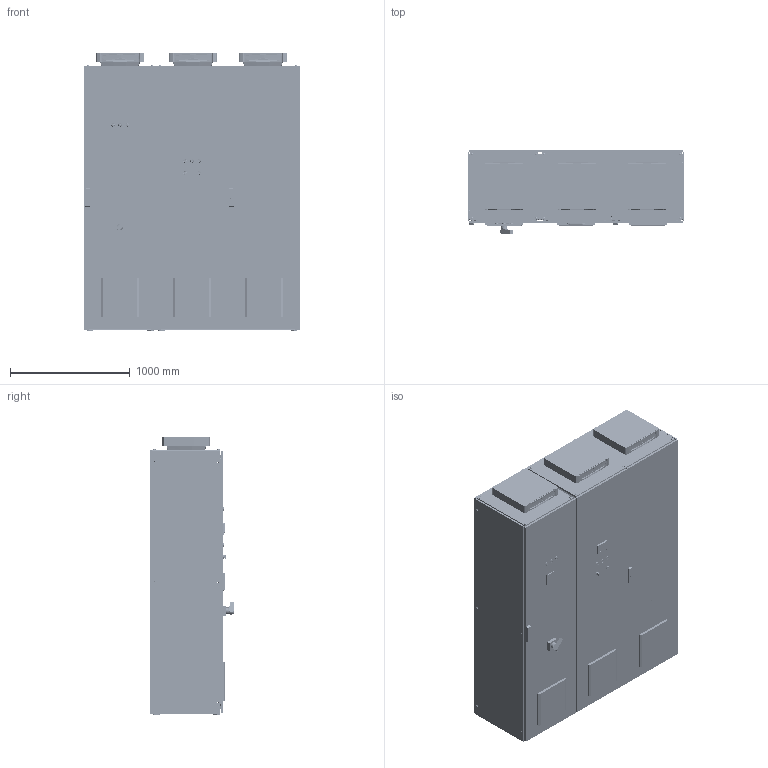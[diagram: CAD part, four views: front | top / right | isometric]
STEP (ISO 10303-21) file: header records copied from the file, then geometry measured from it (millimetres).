
FILE_DESCRIPTION(('Open CASCADE Model'),'2;1');
FILE_NAME('Open CASCADE Shape Model','2025-07-18T11:33:54',('Author'),( 'Open CASCADE'),'Open CASCADE STEP processor 7.6','Open CASCADE 7.6' ,'Unknown');
FILE_SCHEMA(('CONFIG_CONTROL_DESIGN','SHAPE_APPEARANCE_LAYER_MIM'));
Length unit declared in the file: millimetre
Products named in the file (99): S2:Tür rechts (62); 2338212645680; S2:Schrankzubehör allgemein (63); 2338212692192; S2:Schrankzubehör allgemein (334); 2337422496608; S2:Schrankzubehör allgemein (337); 2337422500144; S2:Tür links (64); 2338212642960; S2:Schrankzubehör allgemein (333); S2:Schrankzubehör allgemein (336); S2:Schrankzubehör allgemein (338); 2337422496880; S2:Rückwand (65); 2338212643232; S2:Dachblech (66); 2338212641056; =3+-M2 (330); 2337917831584; =3+-M3 (331); S2:Schrankzubehör allgemein (67); 2337422392160; S2:Schrankzubehör allgemein (68); S2:Schrankzubehör allgemein (69); S2:Schrankzubehör allgemein (70); S2:Boden (71); 2338212645952; S2:Bodenblech (72); 2338212679136; S2:Bodenblech (73); 2338212686752; S2:Bodenblech (74); 2338212675872; S2:Bodenblech (75); S2:Bodenblech (76); S2:Bodenblech (77); S2:Chassis (78); 2338212687024; S2:Schrankzubehör allgemein (79)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
Assembly tree (111 placements, depth 3):
  S2:Tür rechts (62)
    2338212645680
    S2:Schrankzubehör allgemein (63)
      2338212692192
    S2:Schrankzubehör allgemein (334)
      2337422496608
    S2:Schrankzubehör allgemein (337)
      2337422500144
  S2:Tür links (64)
    2338212642960
    S2:Schrankzubehör allgemein (333)
      2337422496608
    S2:Schrankzubehör allgemein (336)
      2337422500144
    S2:Schrankzubehör allgemein (338)
      2337422496880
  S2:Rückwand (65)
    2338212643232
  S2:Dachblech (66)
    2338212641056
    =3+-M2 (330)
      2337917831584
    =3+-M3 (331)
      2337917831584
    S2:Schrankzubehör allgemein (67)
      2337422392160
    S2:Schrankzubehör allgemein (68)
      2337422392160
    S2:Schrankzubehör allgemein (69)
      2337422392160
    S2:Schrankzubehör allgemein (70)
      2337422392160
  S2:Boden (71)
    2338212645952
    S2:Bodenblech (72)
      2338212679136
    S2:Bodenblech (73)
      2338212686752
    S2:Bodenblech (74)
      2338212675872
    S2:Bodenblech (75)
      2338212679136
    S2:Bodenblech (76)
      2338212686752
    S2:Bodenblech (77)
      2338212675872
    S2:Chassis (78)
      2338212687024
    S2:Schrankzubehör allgemein (79)
      2338212696000
    S2:Schrankzubehör allgemein (80)
      2338212696000
    S2:Schrankzubehör allgemein (81)
      2338212696000
    S2:Schrankzubehör allgemein (82)
      2338212696000
Bounding box: 1807 x 701.9 x 2314 mm (x, y, z)
Volume: 84656232.5 mm3; surface area: 34411410.6 mm2
Topology: 85 solids, 4753 shells, 17429 faces, 50306 edges, 38203 vertices
Faces by surface type: plane 14087, cylinder 2479, cone 592, torus 186, bspline 44, sphere 26, revolution 15
Full cylindrical faces by diameter (mm): 7 x2, 7.4 x12, 8 x34, 9.28 x12, 10 x18, 11.2 x4, 11.22 x4, 11.25 x4, 12 x8, 13 x12, 14 x18, 16 x10, 16.1 x2, 19.8 x2, 21 x8, 22 x8, 24 x8, 200 x3
Entity records: 535229 total; most frequent: CARTESIAN_POINT 111269, DIRECTION 83484, ORIENTED_EDGE 79258, EDGE_CURVE 46837, LINE 39927, VECTOR 39927, VERTEX_POINT 35901, AXIS2_PLACEMENT_3D 21771
